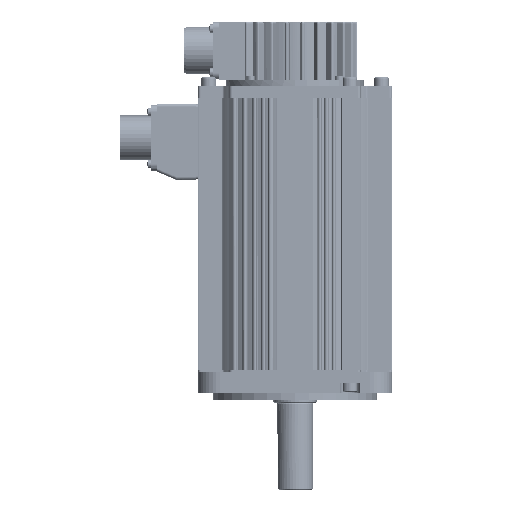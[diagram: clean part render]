
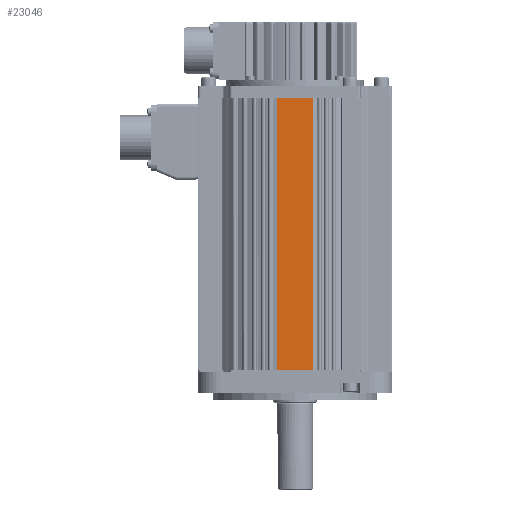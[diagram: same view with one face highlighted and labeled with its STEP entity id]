
A CAD part, left-side view. The second image highlights one B-rep face of the part: STEP entity #23046.
In plain terms, the highlighted planar face has unit normal (-1, 0, 0) as drawn and (0, 1, 0) by its records, which use the part's own axes.
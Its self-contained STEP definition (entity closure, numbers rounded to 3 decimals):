
#6925=DIRECTION('',(0.,0.,-1.));
#6926=VECTOR('',#6925,24.632);
#6927=CARTESIAN_POINT('',(182.,65.,12.3));
#6928=LINE('',#6927,#6926);
#9816=DIRECTION('',(1.,0.,0.));
#9817=VECTOR('',#9816,182.);
#9818=CARTESIAN_POINT('',(0.,65.,12.3));
#9819=LINE('',#9818,#9817);
#9820=DIRECTION('',(0.,0.,-1.));
#9821=VECTOR('',#9820,24.632);
#9822=CARTESIAN_POINT('',(0.,65.,12.3));
#9823=LINE('',#9822,#9821);
#9828=DIRECTION('',(-1.,0.,0.));
#9829=VECTOR('',#9828,182.);
#9830=CARTESIAN_POINT('',(182.,65.,-12.332));
#9831=LINE('',#9830,#9829);
#11125=CARTESIAN_POINT('',(0.,65.,-12.332));
#11126=VERTEX_POINT('',#11125);
#11127=CARTESIAN_POINT('',(0.,65.,12.3));
#11128=VERTEX_POINT('',#11127);
#13172=CARTESIAN_POINT('',(182.,65.,12.3));
#13173=VERTEX_POINT('',#13172);
#13174=CARTESIAN_POINT('',(182.,65.,-12.332));
#13175=VERTEX_POINT('',#13174);
#23034=CARTESIAN_POINT('',(0.,65.,-65.));
#23035=DIRECTION('',(0.,1.,0.));
#23036=DIRECTION('',(0.,0.,1.));
#23037=AXIS2_PLACEMENT_3D('',#23034,#23035,#23036);
#23038=PLANE('',#23037);
#23040=ORIENTED_EDGE('',*,*,#23039,.F.);
#23041=ORIENTED_EDGE('',*,*,#16134,.F.);
#23042=ORIENTED_EDGE('',*,*,#23029,.F.);
#23043=ORIENTED_EDGE('',*,*,#13814,.T.);
#23044=EDGE_LOOP('',(#23040,#23041,#23042,#23043));
#23045=FACE_OUTER_BOUND('',#23044,.F.);
#23046=ADVANCED_FACE('',(#23045),#23038,.T.);
#13814=EDGE_CURVE('',#11128,#11126,#9823,.T.);
#16134=EDGE_CURVE('',#13173,#13175,#6928,.T.);
#23029=EDGE_CURVE('',#11128,#13173,#9819,.T.);
#23039=EDGE_CURVE('',#13175,#11126,#9831,.T.);
